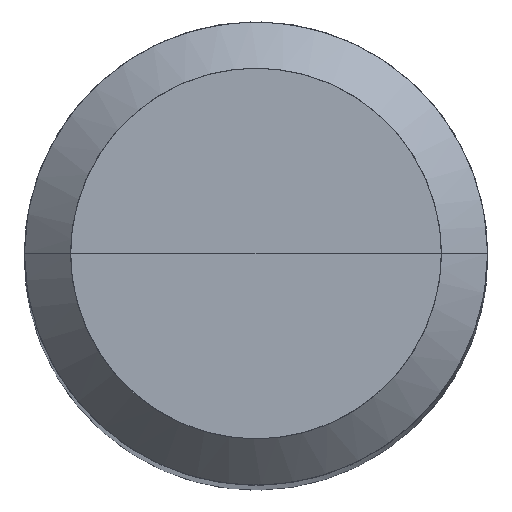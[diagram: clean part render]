
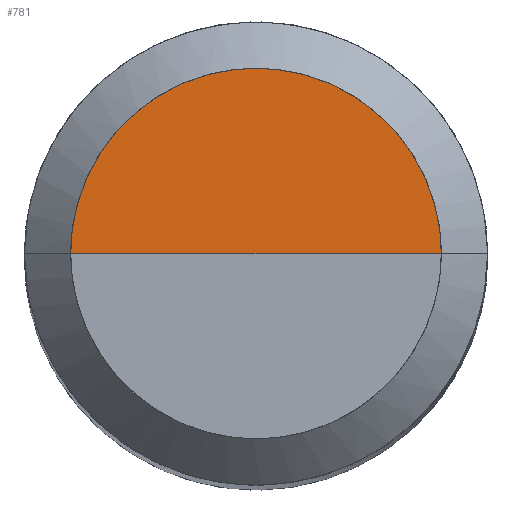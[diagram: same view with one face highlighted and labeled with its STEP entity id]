
A CAD part, top view. The second image highlights one B-rep face of the part: STEP entity #781.
In plain terms, the highlighted free-form (B-spline) face has degree [1, 2] with [2, 5] control points.
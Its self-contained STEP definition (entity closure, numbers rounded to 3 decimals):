
#494=CARTESIAN_POINT('',(4.8,0.0,72.483));
#495=CARTESIAN_POINT('',(4.8,4.8,72.483));
#496=CARTESIAN_POINT('',(0.0,4.8,72.483));
#497=CARTESIAN_POINT('',(-4.8,4.8,72.483));
#498=CARTESIAN_POINT('',(-4.8,0.0,72.483));
#499=CARTESIAN_POINT('',(0.0,0.0,72.483));
#766=(
BOUNDED_SURFACE()
B_SPLINE_SURFACE(1,2,(
(#494,#495,#496,#497,#498),
(#499,#499,#499,#499,#499)
), .UNSPECIFIED.,.F.,.F.,.F.)
B_SPLINE_SURFACE_WITH_KNOTS((2,2),(3,2,3),(
0.0,1.0),(
0.0,0.5,1.0), .UNSPECIFIED.)
GEOMETRIC_REPRESENTATION_ITEM()
RATIONAL_B_SPLINE_SURFACE(((1.0,0.707,1.0,0.707,1.0),
(1.0,0.707,1.0,0.707,1.0)
))
REPRESENTATION_ITEM('')
SURFACE()
);
#767=(
BOUNDED_CURVE()
B_SPLINE_CURVE(2,(#498,#497,#496,#495,#494),.UNSPECIFIED.,.F.,.F.)
B_SPLINE_CURVE_WITH_KNOTS((3,2,3),
(0.0,0.5,1.0),.UNSPECIFIED.)
CURVE()
GEOMETRIC_REPRESENTATION_ITEM()
RATIONAL_B_SPLINE_CURVE((1.0,0.707,1.0,0.707,1.0))
REPRESENTATION_ITEM('')
);
#768=(
BOUNDED_CURVE()
B_SPLINE_CURVE(1,(#494,#499),.UNSPECIFIED.,.F.,.F.)
B_SPLINE_CURVE_WITH_KNOTS((2,2),
(0.0,1.0),.UNSPECIFIED.)
CURVE()
GEOMETRIC_REPRESENTATION_ITEM()
RATIONAL_B_SPLINE_CURVE((1.0,1.0))
REPRESENTATION_ITEM('')
);
#769=(
BOUNDED_CURVE()
B_SPLINE_CURVE(1,(#499,#498),.UNSPECIFIED.,.F.,.F.)
B_SPLINE_CURVE_WITH_KNOTS((2,2),
(0.0,1.0),.UNSPECIFIED.)
CURVE()
GEOMETRIC_REPRESENTATION_ITEM()
RATIONAL_B_SPLINE_CURVE((1.0,1.0))
REPRESENTATION_ITEM('')
);
#770=VERTEX_POINT('',#494);
#771=VERTEX_POINT('',#498);
#772=VERTEX_POINT('',#499);
#773=EDGE_CURVE('',#771,#770,#767,.T.);
#774=EDGE_CURVE('',#770,#772,#768,.T.);
#775=EDGE_CURVE('',#772,#771,#769,.T.);
#776=ORIENTED_EDGE('',*,*,#773,.T.);
#777=ORIENTED_EDGE('',*,*,#774,.T.);
#778=ORIENTED_EDGE('',*,*,#775,.T.);
#779=EDGE_LOOP('',(#776,#777,#778));
#780=FACE_OUTER_BOUND('',#779,.T.);
#781=ADVANCED_FACE('',(#780),#766,.T.);
